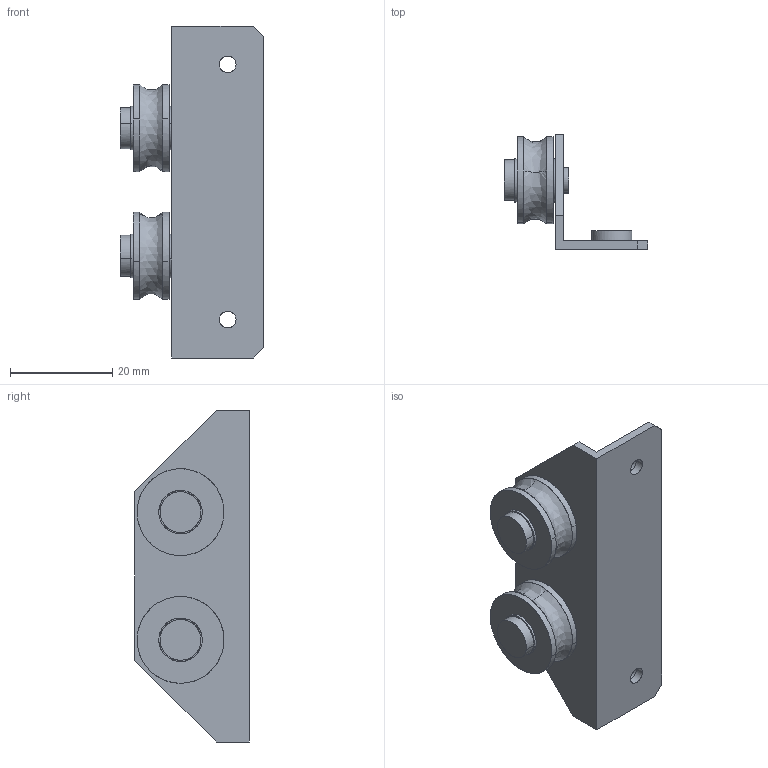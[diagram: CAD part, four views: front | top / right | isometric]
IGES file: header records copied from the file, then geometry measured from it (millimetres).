
Global section: file name: No Iges File Name specified; native system: AutoDesk Inventor R11.0; preprocessor: AutoDesk Inventor Iges Exporter R11.0; author: No Author specified; organization: No Organization specified; date: 20190511.110506; units: millimetre
Bounding box: 28 x 22.5 x 65 mm (x, y, z)
Surface area: 7020.8 mm2 (no closed solid volume)
Topology: 0 solids, 0 shells, 72 faces, 514 edges, 514 vertices
Faces by surface type: bspline 72
